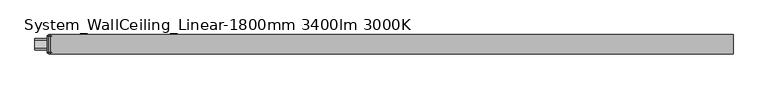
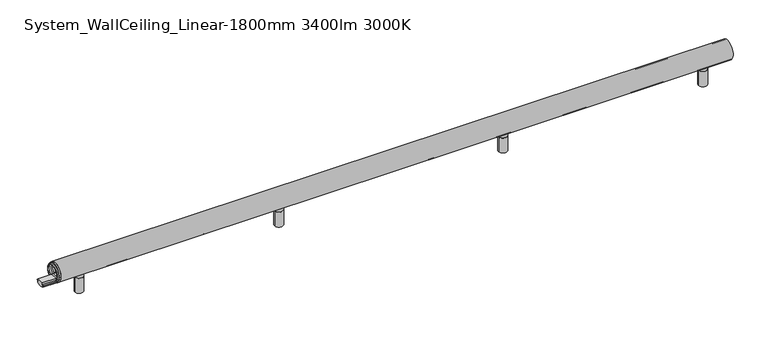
"""IFC4 building model written with IfcOpenShell, lengths in millimetres: light fixture geometry, ARTEMIDE-AoL-System-Linear_WallCeiling_US : System_WallCeiling_Linear-1800mm 3400lm 3000K."""

from ifc_helpers import new_model, si_unit, point, frame, frame_2d, origin, place, context, project, spatial, polyline, circle_curve, trimmed, segment, composite_curve, outline, extrude, source, transform, mapped, element, save
from ifc_brep_helpers import plane_surface, cylinder_surface, revolved_surface, advanced_brep


def system_wallceiling_linear_1800mm_3400lm_3000k_a307d6c8(model_context):
    return source(origin(), model_context, "Body", "SolidModel", [
        advanced_brep(
        [(-2.0, 25.0245983, 74.9754017), (-2.0, -25.0245983, 74.9754017), (-2.0, -9.5062575, 60.6916114), (-2.0, -9.5062575, 64.3781516), (-2.0, 9.5062575, 64.3781516), (-2.0, 9.5062575, 60.6916114), (-2.0, 15.4273739, 60.6916114), (-2.0, 17.2867732, 60.6916114), (-2.0, -17.2867732, 60.6916114), (-2.0, -15.4273739, 60.6916114), (2.0, 25.0245983, 74.9754017), (2.0, -25.0245983, 74.9754017), (2.0, -9.5062575, 60.6916114), (2.0, -15.4273739, 60.6916114), (2.0, -17.2867732, 60.6916114), (2.0, 17.2867732, 60.6916114), (2.0, 15.4273739, 60.6916114), (2.0, 9.5062575, 60.6916114), (2.0, 9.5062575, 64.3781516), (2.0, -9.5062575, 64.3781516), (-6.0, -15.4273739, 60.6916114), (-6.0, -17.2867732, 60.6916114), (-6.0, 17.2867732, 60.6916114), (-6.0, 15.4273739, 60.6916114), (6.0, -15.4273739, 60.6916114), (6.0, 15.4273739, 60.6916114), (6.0, 17.2867732, 60.6916114), (6.0, -17.2867732, 60.6916114)],
        [
            (0, 1, circle_curve(frame((-2.0, 0.0, 74.9754017), z_axis=(-1.0, 0.0, 0.0), x_axis=(0.0, -1.0, 0.0)), 25.0245983)),
            (1, 0, circle_curve(frame((-2.0, 0.0, 74.9754017), z_axis=(-1.0, 0.0, 0.0), x_axis=(0.0, -1.0, 0.0)), 25.0245983)),
            (2, 3),
            (3, 4),
            (4, 5),
            (5, 6),
            (6, 7),
            (7, 8, circle_curve(frame((-2.0, 0.0, 74.9754017), z_axis=(1.0, 0.0, 0.0), x_axis=(0.0, -1.0, 0.0)), 22.4245221)),
            (8, 9),
            (9, 2),
            (10, 11, circle_curve(frame((2.0, 0.0, 74.9754017), z_axis=(1.0, 0.0, 0.0), x_axis=(0.0, -1.0, 0.0)), 25.0245983)),
            (11, 10, circle_curve(frame((2.0, 0.0, 74.9754017), z_axis=(1.0, 0.0, 0.0), x_axis=(0.0, -1.0, 0.0)), 25.0245983)),
            (12, 13),
            (13, 14),
            (14, 15, circle_curve(frame((2.0, 0.0, 74.9754017), z_axis=(-1.0, 0.0, 0.0), x_axis=(0.0, -1.0, 0.0)), 22.4245221)),
            (15, 16),
            (16, 17),
            (17, 18),
            (18, 19),
            (19, 12),
            (5, 17),
            (16, 6),
            (9, 13),
            (12, 2),
            (19, 3),
            (0, 10),
            (11, 1),
            (16, 13, circle_curve(frame((2.0, 0.0, 74.9754017), z_axis=(1.0, 0.0, 0.0), x_axis=(0.0, -1.0, 0.0)), 21.0245221)),
            (9, 6, circle_curve(frame((-2.0, 0.0, 74.9754017), z_axis=(-1.0, 0.0, 0.0), x_axis=(0.0, -1.0, 0.0)), 21.0245221)),
            (20, 21),
            (21, 22, circle_curve(frame((-6.0, 0.0, 74.9754017), z_axis=(-1.0, 0.0, 0.0), x_axis=(0.0, -1.0, 0.0)), 22.4245221)),
            (22, 23),
            (23, 20, circle_curve(frame((-6.0, 0.0, 74.9754017), z_axis=(1.0, 0.0, 0.0), x_axis=(0.0, -1.0, 0.0)), 21.0245221)),
            (24, 25, circle_curve(frame((6.0, 0.0, 74.9754017), z_axis=(-1.0, 0.0, 0.0), x_axis=(0.0, -1.0, 0.0)), 21.0245221)),
            (25, 26),
            (26, 27, circle_curve(frame((6.0, 0.0, 74.9754017), z_axis=(1.0, 0.0, 0.0), x_axis=(0.0, -1.0, 0.0)), 22.4245221)),
            (27, 24),
            (23, 6),
            (9, 20),
            (24, 13),
            (16, 25),
            (8, 21),
            (27, 14),
            (7, 22),
            (26, 15),
            (18, 4),
        ],
        [
            plane_surface(frame((-2.0, 0.0, 74.9754017), z_axis=(-1.0, 0.0, 0.0), x_axis=(0.0, 0.0, -1.0))),
            plane_surface(frame((2.0, 0.0, 74.9754017), z_axis=(1.0, 0.0, 0.0), x_axis=(0.0, 0.0, -1.0))),
            plane_surface(frame((-2.0, 9.5062575, 60.6916114), z_axis=(0.0, 0.0, 1.0), x_axis=(1.0, 0.0, 0.0))),
            plane_surface(frame((-2.0, -15.4273739, 60.6916114), z_axis=(0.0, 0.0, 1.0), x_axis=(1.0, 0.0, 0.0))),
            plane_surface(frame((-2.0, -9.5062575, 60.6916114), z_axis=(0.0, -1.0, 0.0), x_axis=(1.0, 0.0, 0.0))),
            cylinder_surface(frame((-2.0, 0.0, 74.9754017), z_axis=(-1.0, 0.0, 0.0), x_axis=(0.0, -1.0, 0.0)), 25.0245983),
            revolved_surface(polyline([(2.0, -21.0245221, 74.9754017), (-2.0, -21.0245221, 74.9754017)]), (-2.0, 0.0, 74.9754017), (1.0, 0.0, 0.0)),
            plane_surface(frame((-6.0, 0.0, 74.9754017), z_axis=(-1.0, 0.0, 0.0), x_axis=(0.0, 0.0, -1.0))),
            plane_surface(frame((6.0, 0.0, 74.9754017), z_axis=(1.0, 0.0, 0.0), x_axis=(0.0, 0.0, -1.0))),
            revolved_surface(polyline([(-2.0, -21.0245221, 74.9754017), (-6.0, -21.0245221, 74.9754017)]), (-6.0, 0.0, 74.9754017), (1.0, 0.0, 0.0)),
            revolved_surface(polyline([(6.0, -21.0245221, 74.9754017), (2.0, -21.0245221, 74.9754017)]), (-6.0, 0.0, 74.9754017), (1.0, 0.0, 0.0)),
            plane_surface(frame((-6.0, -15.4273739, 60.6916114), z_axis=(0.0, 0.0, -1.0), x_axis=(1.0, 0.0, 0.0))),
            cylinder_surface(frame((-6.0, 0.0, 74.9754017), z_axis=(-1.0, 0.0, 0.0), x_axis=(0.0, -1.0, 0.0)), 22.4245221),
            plane_surface(frame((-6.0, 17.2867732, 60.6916114), z_axis=(0.0, 0.0, -1.0), x_axis=(1.0, 0.0, 0.0))),
            plane_surface(frame((-2.0, -9.5062575, 64.3781516), z_axis=(0.0, 0.0, 1.0), x_axis=(1.0, 0.0, 0.0))),
            plane_surface(frame((-2.0, 9.5062575, 64.3781516), z_axis=(0.0, 1.0, 0.0), x_axis=(1.0, 0.0, 0.0))),
        ],
        [
            (0, [[1, 2], [3, 4, 5, 6, 7, 8, 9, 10]]),
            (1, [[11, 12], [13, 14, 15, 16, 17, 18, 19, 20]]),
            (2, [[-6, 21, -17, 22]]),
            (3, [[-10, 23, -13, 24]]),
            (4, [[-3, -24, -20, 25]]),
            (5, [[-1, 26, -12, 27]]),
            (6, [[-22, 28, -23, 29]]),
            (7, [[30, 31, 32, 33]]),
            (8, [[34, 35, 36, 37]]),
            (9, [[-33, 38, -29, 39]]),
            (10, [[-34, 40, -28, 41]]),
            (11, [[-30, -39, -9, 42]]),
            (11, [[-37, 43, -14, -40]]),
            (12, [[-31, -42, -8, 44]]),
            (12, [[-36, 45, -15, -43]]),
            (13, [[-32, -44, -7, -38]]),
            (13, [[-35, -41, -16, -45]]),
            (5, [[-2, -27, -11, -26]]),
            (14, [[-4, -25, -19, 46]]),
            (15, [[-5, -46, -18, -21]]),
        ],
    ),
        extrude(outline(composite_curve([segment(polyline([(-11.75, 57.2067494), (-15.304087, 57.2067494), (-15.304087, 58.7367744), (-9.5062575, 58.7367744), (-9.5062575, 64.3781516), (9.5062575, 64.3781516), (9.5062575, 58.7367744), (15.304087, 58.7367744), (15.304087, 57.2067494), (11.75, 57.2067494), (11.75, 52.880877)]), True, "CONTINUOUS"), segment(trimmed(circle_curve(frame_2d((0.0, 74.9754017)), 25.0245983), [point((11.75, 52.880877))], [point((-11.75, 52.880877))], False, "CARTESIAN"), True, "CONTINUOUS"), segment(polyline([(-11.75, 52.880877), (-11.75, 57.2067494)]), True, "CONTINUOUS")], self_intersect=False)), frame((2.0, 0.0, 0.0), z_axis=(1.0, 0.0, 0.0), x_axis=(0.0, 1.0, 0.0)), (0.0, 0.0, 1.0), 36.0),
        extrude(outline(composite_curve([segment(polyline([(-11.75, 57.2067494), (-15.304087, 57.2067494), (-15.304087, 58.7367744), (-9.5062575, 58.7367744), (-9.5062575, 64.3781516), (9.5062575, 64.3781516), (9.5062575, 58.7367744), (15.304087, 58.7367744), (15.304087, 57.2067494), (11.75, 57.2067494), (11.75, 52.880877)]), True, "CONTINUOUS"), segment(trimmed(circle_curve(frame_2d((0.0, 74.9754017)), 25.0245983), [point((11.75, 52.880877))], [point((-11.75, 52.880877))], False, "CARTESIAN"), True, "CONTINUOUS"), segment(polyline([(-11.75, 52.880877), (-11.75, 57.2067494)]), True, "CONTINUOUS")], self_intersect=False)), frame((-38.0, 0.0, 0.0), z_axis=(1.0, 0.0, 0.0), x_axis=(0.0, 1.0, 0.0)), (0.0, 0.0, 1.0), 36.0),
        advanced_brep(
        [(588.6387897, 0.0, 1.0), (598.027877, 0.0, 1.0), (598.027877, 0.0, 0.0), (588.6387897, 0.0, 0.0), (582.1387897, 0.0, 1.0), (604.527877, 0.0, 1.0), (582.1387897, 0.0, 42.5), (604.527877, 0.0, 42.5), (584.6144141, 0.0, 42.5), (602.0522526, 0.0, 42.5), (584.6144141, 0.0, 43.4995055), (602.0522526, 0.0, 43.4995055), (582.1387897, 0.0, 43.4995055), (604.527877, 0.0, 43.4995055), (582.1387897, 0.0, 52.9333396), (604.527877, 0.0, 52.9333396), (593.3333333, 0.0, 52.9333396), (593.3333333, 0.0, 0.0)],
        [
            (0, 1, circle_curve(frame((593.3333333, 0.0, 1.0), z_axis=(0.0, 0.0, -1.0), x_axis=(1.0, 0.0, 0.0)), 4.6945436)),
            (1, 2),
            (2, 3, circle_curve(frame((593.3333333, 0.0, 0.0), z_axis=(0.0, 0.0, 1.0), x_axis=(1.0, 0.0, 0.0)), 4.6945436)),
            (3, 0),
            (1, 0, circle_curve(frame((593.3333333, 0.0, 1.0), z_axis=(0.0, 0.0, -1.0), x_axis=(1.0, 0.0, 0.0)), 4.6945436)),
            (3, 2, circle_curve(frame((593.3333333, 0.0, 0.0), z_axis=(0.0, 0.0, 1.0), x_axis=(1.0, 0.0, 0.0)), 4.6945436)),
            (4, 5, circle_curve(frame((593.3333333, 0.0, 1.0), z_axis=(0.0, 0.0, -1.0), x_axis=(1.0, 0.0, 0.0)), 11.1945436)),
            (5, 1),
            (0, 4),
            (5, 4, circle_curve(frame((593.3333333, 0.0, 1.0), z_axis=(0.0, 0.0, -1.0), x_axis=(1.0, 0.0, 0.0)), 11.1945436)),
            (6, 7, circle_curve(frame((593.3333333, 0.0, 42.5), z_axis=(0.0, 0.0, -1.0), x_axis=(1.0, 0.0, 0.0)), 11.1945436)),
            (7, 5),
            (4, 6),
            (7, 6, circle_curve(frame((593.3333333, 0.0, 42.5), z_axis=(0.0, 0.0, -1.0), x_axis=(1.0, 0.0, 0.0)), 11.1945436)),
            (8, 9, circle_curve(frame((593.3333333, 0.0, 42.5), z_axis=(0.0, 0.0, -1.0), x_axis=(1.0, 0.0, 0.0)), 8.7189192)),
            (9, 7),
            (6, 8),
            (9, 8, circle_curve(frame((593.3333333, 0.0, 42.5), z_axis=(0.0, 0.0, -1.0), x_axis=(1.0, 0.0, 0.0)), 8.7189192)),
            (10, 11, circle_curve(frame((593.3333333, 0.0, 43.4995055), z_axis=(0.0, 0.0, -1.0), x_axis=(1.0, 0.0, 0.0)), 8.7189192)),
            (11, 9),
            (8, 10),
            (11, 10, circle_curve(frame((593.3333333, 0.0, 43.4995055), z_axis=(0.0, 0.0, -1.0), x_axis=(1.0, 0.0, 0.0)), 8.7189192)),
            (12, 13, circle_curve(frame((593.3333333, 0.0, 43.4995055), z_axis=(0.0, 0.0, -1.0), x_axis=(1.0, 0.0, 0.0)), 11.1945436)),
            (13, 11),
            (10, 12),
            (13, 12, circle_curve(frame((593.3333333, 0.0, 43.4995055), z_axis=(0.0, 0.0, -1.0), x_axis=(1.0, 0.0, 0.0)), 11.1945436)),
            (14, 15, circle_curve(frame((593.3333333, 0.0, 52.9333396), z_axis=(0.0, 0.0, -1.0), x_axis=(1.0, 0.0, 0.0)), 11.1945436)),
            (15, 13),
            (12, 14),
            (15, 14, circle_curve(frame((593.3333333, 0.0, 52.9333396), z_axis=(0.0, 0.0, -1.0), x_axis=(1.0, 0.0, 0.0)), 11.1945436)),
            (16, 15),
            (14, 16),
            (2, 17),
            (17, 3),
        ],
        [
            cylinder_surface(frame((593.3333333, 0.0, -58.83358), z_axis=(0.0, 0.0, 1.0), x_axis=(1.0, 0.0, 0.0)), 4.6945436),
            plane_surface(frame((593.3333333, 0.0, 1.0), z_axis=(0.0, 0.0, -1.0), x_axis=(1.0, 0.0, 0.0))),
            cylinder_surface(frame((593.3333333, 0.0, -58.83358), z_axis=(0.0, 0.0, 1.0), x_axis=(1.0, 0.0, 0.0)), 11.1945436),
            plane_surface(frame((593.3333333, 0.0, 42.5), z_axis=(0.0, 0.0, 1.0), x_axis=(1.0, 0.0, 0.0))),
            cylinder_surface(frame((593.3333333, 0.0, -58.83358), z_axis=(0.0, 0.0, 1.0), x_axis=(1.0, 0.0, 0.0)), 8.7189192),
            plane_surface(frame((593.3333333, 0.0, 43.4995055), z_axis=(0.0, 0.0, -1.0), x_axis=(1.0, 0.0, 0.0))),
            plane_surface(frame((593.3333333, 0.0, 52.9333396), z_axis=(0.0, 0.0, 1.0), x_axis=(1.0, 0.0, 0.0))),
            plane_surface(frame((593.3333333, 0.0, 0.0), z_axis=(0.0, 0.0, -1.0), x_axis=(1.0, 0.0, 0.0))),
        ],
        [
            (0, [[1, 2, 3, 4]]),
            (0, [[5, -4, 6, -2]]),
            (1, [[7, 8, -1, 9]]),
            (1, [[10, -9, -5, -8]]),
            (2, [[11, 12, -7, 13]]),
            (2, [[14, -13, -10, -12]]),
            (3, [[15, 16, -11, 17]]),
            (3, [[18, -17, -14, -16]]),
            (4, [[19, 20, -15, 21]]),
            (4, [[22, -21, -18, -20]]),
            (5, [[23, 24, -19, 25]]),
            (5, [[26, -25, -22, -24]]),
            (2, [[27, 28, -23, 29]]),
            (2, [[30, -29, -26, -28]]),
            (6, [[31, -27, 32]]),
            (6, [[-32, -30, -31]]),
            (7, [[-3, 33, 34]]),
            (7, [[-6, -34, -33]]),
        ],
    ),
        advanced_brep(
        [(1181.972123, 0.0, 1.0), (1191.3612103, 0.0, 1.0), (1191.3612103, 0.0, 0.0), (1181.972123, 0.0, 0.0), (1175.472123, 0.0, 1.0), (1197.8612103, 0.0, 1.0), (1175.472123, 0.0, 42.5), (1197.8612103, 0.0, 42.5), (1177.9477474, 0.0, 42.5), (1195.3855859, 0.0, 42.5), (1177.9477474, 0.0, 43.4995055), (1195.3855859, 0.0, 43.4995055), (1175.472123, 0.0, 43.4995055), (1197.8612103, 0.0, 43.4995055), (1175.472123, 0.0, 52.9333396), (1197.8612103, 0.0, 52.9333396), (1186.6666667, 0.0, 52.9333396), (1186.6666667, 0.0, 0.0)],
        [
            (0, 1, circle_curve(frame((1186.6666667, 0.0, 1.0), z_axis=(0.0, 0.0, -1.0), x_axis=(1.0, 0.0, 0.0)), 4.6945436)),
            (1, 2),
            (2, 3, circle_curve(frame((1186.6666667, 0.0, 0.0), z_axis=(0.0, 0.0, 1.0), x_axis=(1.0, 0.0, 0.0)), 4.6945436)),
            (3, 0),
            (1, 0, circle_curve(frame((1186.6666667, 0.0, 1.0), z_axis=(0.0, 0.0, -1.0), x_axis=(1.0, 0.0, 0.0)), 4.6945436)),
            (3, 2, circle_curve(frame((1186.6666667, 0.0, 0.0), z_axis=(0.0, 0.0, 1.0), x_axis=(1.0, 0.0, 0.0)), 4.6945436)),
            (4, 5, circle_curve(frame((1186.6666667, 0.0, 1.0), z_axis=(0.0, 0.0, -1.0), x_axis=(1.0, 0.0, 0.0)), 11.1945436)),
            (5, 1),
            (0, 4),
            (5, 4, circle_curve(frame((1186.6666667, 0.0, 1.0), z_axis=(0.0, 0.0, -1.0), x_axis=(1.0, 0.0, 0.0)), 11.1945436)),
            (6, 7, circle_curve(frame((1186.6666667, 0.0, 42.5), z_axis=(0.0, 0.0, -1.0), x_axis=(1.0, 0.0, 0.0)), 11.1945436)),
            (7, 5),
            (4, 6),
            (7, 6, circle_curve(frame((1186.6666667, 0.0, 42.5), z_axis=(0.0, 0.0, -1.0), x_axis=(1.0, 0.0, 0.0)), 11.1945436)),
            (8, 9, circle_curve(frame((1186.6666667, 0.0, 42.5), z_axis=(0.0, 0.0, -1.0), x_axis=(1.0, 0.0, 0.0)), 8.7189192)),
            (9, 7),
            (6, 8),
            (9, 8, circle_curve(frame((1186.6666667, 0.0, 42.5), z_axis=(0.0, 0.0, -1.0), x_axis=(1.0, 0.0, 0.0)), 8.7189192)),
            (10, 11, circle_curve(frame((1186.6666667, 0.0, 43.4995055), z_axis=(0.0, 0.0, -1.0), x_axis=(1.0, 0.0, 0.0)), 8.7189192)),
            (11, 9),
            (8, 10),
            (11, 10, circle_curve(frame((1186.6666667, 0.0, 43.4995055), z_axis=(0.0, 0.0, -1.0), x_axis=(1.0, 0.0, 0.0)), 8.7189192)),
            (12, 13, circle_curve(frame((1186.6666667, 0.0, 43.4995055), z_axis=(0.0, 0.0, -1.0), x_axis=(1.0, 0.0, 0.0)), 11.1945436)),
            (13, 11),
            (10, 12),
            (13, 12, circle_curve(frame((1186.6666667, 0.0, 43.4995055), z_axis=(0.0, 0.0, -1.0), x_axis=(1.0, 0.0, 0.0)), 11.1945436)),
            (14, 15, circle_curve(frame((1186.6666667, 0.0, 52.9333396), z_axis=(0.0, 0.0, -1.0), x_axis=(1.0, 0.0, 0.0)), 11.1945436)),
            (15, 13),
            (12, 14),
            (15, 14, circle_curve(frame((1186.6666667, 0.0, 52.9333396), z_axis=(0.0, 0.0, -1.0), x_axis=(1.0, 0.0, 0.0)), 11.1945436)),
            (16, 15),
            (14, 16),
            (2, 17),
            (17, 3),
        ],
        [
            cylinder_surface(frame((1186.6666667, 0.0, -58.83358), z_axis=(0.0, 0.0, 1.0), x_axis=(1.0, 0.0, 0.0)), 4.6945436),
            plane_surface(frame((1186.6666667, 0.0, 1.0), z_axis=(0.0, 0.0, -1.0), x_axis=(1.0, 0.0, 0.0))),
            cylinder_surface(frame((1186.6666667, 0.0, -58.83358), z_axis=(0.0, 0.0, 1.0), x_axis=(1.0, 0.0, 0.0)), 11.1945436),
            plane_surface(frame((1186.6666667, 0.0, 42.5), z_axis=(0.0, 0.0, 1.0), x_axis=(1.0, 0.0, 0.0))),
            cylinder_surface(frame((1186.6666667, 0.0, -58.83358), z_axis=(0.0, 0.0, 1.0), x_axis=(1.0, 0.0, 0.0)), 8.7189192),
            plane_surface(frame((1186.6666667, 0.0, 43.4995055), z_axis=(0.0, 0.0, -1.0), x_axis=(1.0, 0.0, 0.0))),
            plane_surface(frame((1186.6666667, 0.0, 52.9333396), z_axis=(0.0, 0.0, 1.0), x_axis=(1.0, 0.0, 0.0))),
            plane_surface(frame((1186.6666667, 0.0, 0.0), z_axis=(0.0, 0.0, -1.0), x_axis=(1.0, 0.0, 0.0))),
        ],
        [
            (0, [[1, 2, 3, 4]]),
            (0, [[5, -4, 6, -2]]),
            (1, [[7, 8, -1, 9]]),
            (1, [[10, -9, -5, -8]]),
            (2, [[11, 12, -7, 13]]),
            (2, [[14, -13, -10, -12]]),
            (3, [[15, 16, -11, 17]]),
            (3, [[18, -17, -14, -16]]),
            (4, [[19, 20, -15, 21]]),
            (4, [[22, -21, -18, -20]]),
            (5, [[23, 24, -19, 25]]),
            (5, [[26, -25, -22, -24]]),
            (2, [[27, 28, -23, 29]]),
            (2, [[30, -29, -26, -28]]),
            (6, [[31, -27, 32]]),
            (6, [[-32, -30, -31]]),
            (7, [[-3, 33, 34]]),
            (7, [[-6, -34, -33]]),
        ],
    ),
        advanced_brep(
        [(59.3054564, 0.0, 1.0), (68.6945436, 0.0, 1.0), (68.6945436, 0.0, 0.0), (59.3054564, 0.0, 0.0), (52.8054564, 0.0, 1.0), (75.1945436, 0.0, 1.0), (52.8054564, 0.0, 42.5), (75.1945436, 0.0, 42.5), (55.2810808, 0.0, 42.5), (72.7189192, 0.0, 42.5), (55.2810808, 0.0, 43.4995055), (72.7189192, 0.0, 43.4995055), (52.8054564, 0.0, 43.4995055), (75.1945436, 0.0, 43.4995055), (52.8054564, 0.0, 52.9333396), (75.1945436, 0.0, 52.9333396), (64.0, 0.0, 52.9333396), (64.0, 0.0, 0.0)],
        [
            (0, 1, circle_curve(frame((64.0, 0.0, 1.0), z_axis=(0.0, 0.0, -1.0), x_axis=(1.0, 0.0, 0.0)), 4.6945436)),
            (1, 2),
            (2, 3, circle_curve(frame((64.0, 0.0, 0.0), z_axis=(0.0, 0.0, 1.0), x_axis=(1.0, 0.0, 0.0)), 4.6945436)),
            (3, 0),
            (1, 0, circle_curve(frame((64.0, 0.0, 1.0), z_axis=(0.0, 0.0, -1.0), x_axis=(1.0, 0.0, 0.0)), 4.6945436)),
            (3, 2, circle_curve(frame((64.0, 0.0, 0.0), z_axis=(0.0, 0.0, 1.0), x_axis=(1.0, 0.0, 0.0)), 4.6945436)),
            (4, 5, circle_curve(frame((64.0, 0.0, 1.0), z_axis=(0.0, 0.0, -1.0), x_axis=(1.0, 0.0, 0.0)), 11.1945436)),
            (5, 1),
            (0, 4),
            (5, 4, circle_curve(frame((64.0, 0.0, 1.0), z_axis=(0.0, 0.0, -1.0), x_axis=(1.0, 0.0, 0.0)), 11.1945436)),
            (6, 7, circle_curve(frame((64.0, 0.0, 42.5), z_axis=(0.0, 0.0, -1.0), x_axis=(1.0, 0.0, 0.0)), 11.1945436)),
            (7, 5),
            (4, 6),
            (7, 6, circle_curve(frame((64.0, 0.0, 42.5), z_axis=(0.0, 0.0, -1.0), x_axis=(1.0, 0.0, 0.0)), 11.1945436)),
            (8, 9, circle_curve(frame((64.0, 0.0, 42.5), z_axis=(0.0, 0.0, -1.0), x_axis=(1.0, 0.0, 0.0)), 8.7189192)),
            (9, 7),
            (6, 8),
            (9, 8, circle_curve(frame((64.0, 0.0, 42.5), z_axis=(0.0, 0.0, -1.0), x_axis=(1.0, 0.0, 0.0)), 8.7189192)),
            (10, 11, circle_curve(frame((64.0, 0.0, 43.4995055), z_axis=(0.0, 0.0, -1.0), x_axis=(1.0, 0.0, 0.0)), 8.7189192)),
            (11, 9),
            (8, 10),
            (11, 10, circle_curve(frame((64.0, 0.0, 43.4995055), z_axis=(0.0, 0.0, -1.0), x_axis=(1.0, 0.0, 0.0)), 8.7189192)),
            (12, 13, circle_curve(frame((64.0, 0.0, 43.4995055), z_axis=(0.0, 0.0, -1.0), x_axis=(1.0, 0.0, 0.0)), 11.1945436)),
            (13, 11),
            (10, 12),
            (13, 12, circle_curve(frame((64.0, 0.0, 43.4995055), z_axis=(0.0, 0.0, -1.0), x_axis=(1.0, 0.0, 0.0)), 11.1945436)),
            (14, 15, circle_curve(frame((64.0, 0.0, 52.9333396), z_axis=(0.0, 0.0, -1.0), x_axis=(1.0, 0.0, 0.0)), 11.1945436)),
            (15, 13),
            (12, 14),
            (15, 14, circle_curve(frame((64.0, 0.0, 52.9333396), z_axis=(0.0, 0.0, -1.0), x_axis=(1.0, 0.0, 0.0)), 11.1945436)),
            (16, 15),
            (14, 16),
            (2, 17),
            (17, 3),
        ],
        [
            cylinder_surface(frame((64.0, 0.0, -58.83358), z_axis=(0.0, 0.0, 1.0), x_axis=(1.0, 0.0, 0.0)), 4.6945436),
            plane_surface(frame((64.0, 0.0, 1.0), z_axis=(0.0, 0.0, -1.0), x_axis=(1.0, 0.0, 0.0))),
            cylinder_surface(frame((64.0, 0.0, -58.83358), z_axis=(0.0, 0.0, 1.0), x_axis=(1.0, 0.0, 0.0)), 11.1945436),
            plane_surface(frame((64.0, 0.0, 42.5), z_axis=(0.0, 0.0, 1.0), x_axis=(1.0, 0.0, 0.0))),
            cylinder_surface(frame((64.0, 0.0, -58.83358), z_axis=(0.0, 0.0, 1.0), x_axis=(1.0, 0.0, 0.0)), 8.7189192),
            plane_surface(frame((64.0, 0.0, 43.4995055), z_axis=(0.0, 0.0, -1.0), x_axis=(1.0, 0.0, 0.0))),
            plane_surface(frame((64.0, 0.0, 52.9333396), z_axis=(0.0, 0.0, 1.0), x_axis=(1.0, 0.0, 0.0))),
            plane_surface(frame((64.0, 0.0, 0.0), z_axis=(0.0, 0.0, -1.0), x_axis=(1.0, 0.0, 0.0))),
        ],
        [
            (0, [[1, 2, 3, 4]]),
            (0, [[5, -4, 6, -2]]),
            (1, [[7, 8, -1, 9]]),
            (1, [[10, -9, -5, -8]]),
            (2, [[11, 12, -7, 13]]),
            (2, [[14, -13, -10, -12]]),
            (3, [[15, 16, -11, 17]]),
            (3, [[18, -17, -14, -16]]),
            (4, [[19, 20, -15, 21]]),
            (4, [[22, -21, -18, -20]]),
            (5, [[23, 24, -19, 25]]),
            (5, [[26, -25, -22, -24]]),
            (2, [[27, 28, -23, 29]]),
            (2, [[30, -29, -26, -28]]),
            (6, [[31, -27, 32]]),
            (6, [[-32, -30, -31]]),
            (7, [[-3, 33, 34]]),
            (7, [[-6, -34, -33]]),
        ],
    ),
        advanced_brep(
        [(1711.3054564, 0.0, 1.0), (1720.6945436, 0.0, 1.0), (1720.6945436, 0.0, 0.0), (1711.3054564, 0.0, 0.0), (1704.8054564, 0.0, 1.0), (1727.1945436, 0.0, 1.0), (1704.8054564, 0.0, 42.5), (1727.1945436, 0.0, 42.5), (1707.2810808, 0.0, 42.5), (1724.7189192, 0.0, 42.5), (1707.2810808, 0.0, 43.4995055), (1724.7189192, 0.0, 43.4995055), (1704.8054564, 0.0, 43.4995055), (1727.1945436, 0.0, 43.4995055), (1704.8054564, 0.0, 52.9333396), (1727.1945436, 0.0, 52.9333396), (1716.0, 0.0, 52.9333396), (1716.0, 0.0, 0.0)],
        [
            (0, 1, circle_curve(frame((1716.0, 0.0, 1.0), z_axis=(0.0, 0.0, -1.0), x_axis=(1.0, 0.0, 0.0)), 4.6945436)),
            (1, 2),
            (2, 3, circle_curve(frame((1716.0, 0.0, 0.0), z_axis=(0.0, 0.0, 1.0), x_axis=(1.0, 0.0, 0.0)), 4.6945436)),
            (3, 0),
            (1, 0, circle_curve(frame((1716.0, 0.0, 1.0), z_axis=(0.0, 0.0, -1.0), x_axis=(1.0, 0.0, 0.0)), 4.6945436)),
            (3, 2, circle_curve(frame((1716.0, 0.0, 0.0), z_axis=(0.0, 0.0, 1.0), x_axis=(1.0, 0.0, 0.0)), 4.6945436)),
            (4, 5, circle_curve(frame((1716.0, 0.0, 1.0), z_axis=(0.0, 0.0, -1.0), x_axis=(1.0, 0.0, 0.0)), 11.1945436)),
            (5, 1),
            (0, 4),
            (5, 4, circle_curve(frame((1716.0, 0.0, 1.0), z_axis=(0.0, 0.0, -1.0), x_axis=(1.0, 0.0, 0.0)), 11.1945436)),
            (6, 7, circle_curve(frame((1716.0, 0.0, 42.5), z_axis=(0.0, 0.0, -1.0), x_axis=(1.0, 0.0, 0.0)), 11.1945436)),
            (7, 5),
            (4, 6),
            (7, 6, circle_curve(frame((1716.0, 0.0, 42.5), z_axis=(0.0, 0.0, -1.0), x_axis=(1.0, 0.0, 0.0)), 11.1945436)),
            (8, 9, circle_curve(frame((1716.0, 0.0, 42.5), z_axis=(0.0, 0.0, -1.0), x_axis=(1.0, 0.0, 0.0)), 8.7189192)),
            (9, 7),
            (6, 8),
            (9, 8, circle_curve(frame((1716.0, 0.0, 42.5), z_axis=(0.0, 0.0, -1.0), x_axis=(1.0, 0.0, 0.0)), 8.7189192)),
            (10, 11, circle_curve(frame((1716.0, 0.0, 43.4995055), z_axis=(0.0, 0.0, -1.0), x_axis=(1.0, 0.0, 0.0)), 8.7189192)),
            (11, 9),
            (8, 10),
            (11, 10, circle_curve(frame((1716.0, 0.0, 43.4995055), z_axis=(0.0, 0.0, -1.0), x_axis=(1.0, 0.0, 0.0)), 8.7189192)),
            (12, 13, circle_curve(frame((1716.0, 0.0, 43.4995055), z_axis=(0.0, 0.0, -1.0), x_axis=(1.0, 0.0, 0.0)), 11.1945436)),
            (13, 11),
            (10, 12),
            (13, 12, circle_curve(frame((1716.0, 0.0, 43.4995055), z_axis=(0.0, 0.0, -1.0), x_axis=(1.0, 0.0, 0.0)), 11.1945436)),
            (14, 15, circle_curve(frame((1716.0, 0.0, 52.9333396), z_axis=(0.0, 0.0, -1.0), x_axis=(1.0, 0.0, 0.0)), 11.1945436)),
            (15, 13),
            (12, 14),
            (15, 14, circle_curve(frame((1716.0, 0.0, 52.9333396), z_axis=(0.0, 0.0, -1.0), x_axis=(1.0, 0.0, 0.0)), 11.1945436)),
            (16, 15),
            (14, 16),
            (2, 17),
            (17, 3),
        ],
        [
            cylinder_surface(frame((1716.0, 0.0, -58.83358), z_axis=(0.0, 0.0, 1.0), x_axis=(1.0, 0.0, 0.0)), 4.6945436),
            plane_surface(frame((1716.0, 0.0, 1.0), z_axis=(0.0, 0.0, -1.0), x_axis=(1.0, 0.0, 0.0))),
            cylinder_surface(frame((1716.0, 0.0, -58.83358), z_axis=(0.0, 0.0, 1.0), x_axis=(1.0, 0.0, 0.0)), 11.1945436),
            plane_surface(frame((1716.0, 0.0, 42.5), z_axis=(0.0, 0.0, 1.0), x_axis=(1.0, 0.0, 0.0))),
            cylinder_surface(frame((1716.0, 0.0, -58.83358), z_axis=(0.0, 0.0, 1.0), x_axis=(1.0, 0.0, 0.0)), 8.7189192),
            plane_surface(frame((1716.0, 0.0, 43.4995055), z_axis=(0.0, 0.0, -1.0), x_axis=(1.0, 0.0, 0.0))),
            plane_surface(frame((1716.0, 0.0, 52.9333396), z_axis=(0.0, 0.0, 1.0), x_axis=(1.0, 0.0, 0.0))),
            plane_surface(frame((1716.0, 0.0, 0.0), z_axis=(0.0, 0.0, -1.0), x_axis=(1.0, 0.0, 0.0))),
        ],
        [
            (0, [[1, 2, 3, 4]]),
            (0, [[5, -4, 6, -2]]),
            (1, [[7, 8, -1, 9]]),
            (1, [[10, -9, -5, -8]]),
            (2, [[11, 12, -7, 13]]),
            (2, [[14, -13, -10, -12]]),
            (3, [[15, 16, -11, 17]]),
            (3, [[18, -17, -14, -16]]),
            (4, [[19, 20, -15, 21]]),
            (4, [[22, -21, -18, -20]]),
            (5, [[23, 24, -19, 25]]),
            (5, [[26, -25, -22, -24]]),
            (2, [[27, 28, -23, 29]]),
            (2, [[30, -29, -26, -28]]),
            (6, [[31, -27, 32]]),
            (6, [[-32, -30, -31]]),
            (7, [[-3, 33, 34]]),
            (7, [[-6, -34, -33]]),
        ],
    ),
        extrude(outline(composite_curve([segment(trimmed(circle_curve(frame_2d((0.0, 75.0)), 25.0), [point((-11.75, 52.9333396))], [point((11.75, 52.9333396))], False, "CARTESIAN"), True, "CONTINUOUS"), segment(polyline([(11.75, 52.9333396), (11.75, 57.259212), (13.667754, 57.259212), (13.667754, 55.8288843), (15.617754, 57.2440748), (15.617754, 59.244074), (12.667754, 59.244074), (12.667754, 60.744074), (17.2779794, 60.744074)]), True, "CONTINUOUS"), segment(trimmed(circle_curve(frame_2d((0.0, 75.0)), 22.4), [point((17.2779794, 60.744074))], [point((-17.2779794, 60.744074))], True, "CARTESIAN"), True, "CONTINUOUS"), segment(polyline([(-17.2779794, 60.744074), (-12.667754, 60.744074), (-12.667754, 59.244074), (-15.617754, 59.244074), (-15.617754, 57.2440748), (-13.667754, 55.8288843), (-13.667754, 57.259212), (-11.75, 57.259212), (-11.75, 52.9333396)]), True, "CONTINUOUS")], self_intersect=False)), frame((2.0, 0.0, 0.0), z_axis=(1.0, 0.0, 0.0), x_axis=(0.0, 1.0, 0.0)), (0.0, 0.0, 1.0), 1780.0),
        extrude(outline(composite_curve([segment(trimmed(circle_curve(frame_2d((0.0, 75.0)), 25.0), [point((11.75, 52.9333396))], [point((-11.75, 52.9333396))], False, "CARTESIAN"), True, "CONTINUOUS"), segment(polyline([(-11.75, 52.9333396), (-11.75, 57.259212), (-15.304087, 57.259212), (-15.304087, 58.785971), (-9.5062575, 58.785971), (-9.5062575, 64.4273482), (9.5062575, 64.4273482), (9.5062575, 58.785971), (15.304087, 58.785971), (15.304087, 57.259212), (11.75, 57.259212), (11.75, 52.9333396)]), True, "CONTINUOUS")], self_intersect=False)), frame((38.0, 0.0, 0.0), z_axis=(1.0, 0.0, 0.0), x_axis=(0.0, 1.0, 0.0)), (0.0, 0.0, 1.0), 1744.0),
    ])


if __name__ == "__main__":
    model = new_model("IFC4")
    model_context = context("Model", 3, world=origin())
    ifc_project = project(units=[si_unit("LENGTHUNIT", "METRE", prefix="MILLI")], contexts=[model_context])
    site = spatial("IfcSite", under=ifc_project)
    building = spatial("IfcBuilding", under=site)
    placement = place(None, origin())
    system_wallceiling_linear_1800mm_3400lm_3000k_shape = system_wallceiling_linear_1800mm_3400lm_3000k_a307d6c8(model_context)
    element("IfcLightFixture", 1, ObjectType="ARTEMIDE-AoL-System-Linear_WallCeiling_US : System_WallCeiling_Linear-1800mm 3400lm 3000K", at=placement, inside=building, context=model_context, shape_type="MappedRepresentation", body=[
        mapped(system_wallceiling_linear_1800mm_3400lm_3000k_shape, transform((0.0, 0.0, 0.0), x_axis=(1.0, 0.0, 0.0), y_axis=(0.0, 1.0, 0.0), z_axis=(0.0, 0.0, 1.0))),
    ])
    save(model, "model.ifc")
